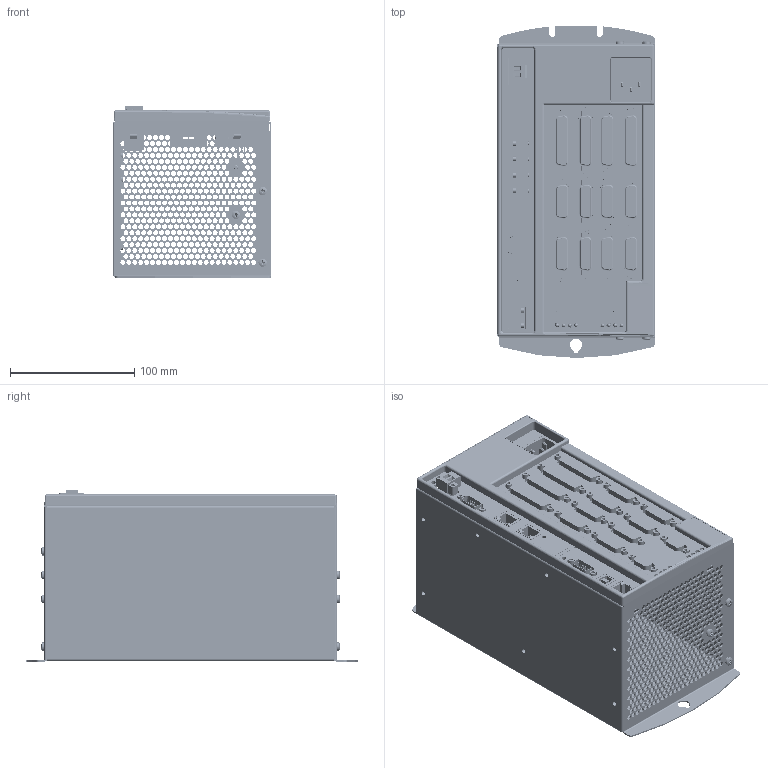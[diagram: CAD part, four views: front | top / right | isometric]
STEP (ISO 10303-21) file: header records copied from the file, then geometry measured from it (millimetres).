
FILE_DESCRIPTION((''),'2;1');
FILE_NAME('ACR9000_6_8_AXIS_EPL','2007-05-01T',('JOHNB'),('Ultra Tool'),'PRO/ENGINEER BY PARAMETRIC TECHNOLOGY CORPORATION, 2005380','PRO/ENGINEER BY PARAMETRIC TECHNOLOGY CORPORATION, 2005380','');
FILE_SCHEMA(('CONFIG_CONTROL_DESIGN'));
Products named in the file (1): ACR9000_6_8_AXIS_EPL
Bounding box: 127 x 266.7 x 138.05 mm (x, y, z)
Volume: 386284.8 mm3; surface area: 398232.6 mm2
Topology: 14 solids, 14 shells, 4520 faces, 12493 edges, 7977 vertices
Faces by surface type: cylinder 2781, plane 1303, bspline 179, cone 160, torus 48, sphere 47, extrusion 2
Entity records: 188497 total; most frequent: CARTESIAN_POINT 33293, DIRECTION 26234, ORIENTED_EDGE 24662, EDGE_CURVE 12331, AXIS2_PLACEMENT_3D 10130, VERTEX_POINT 8110, EDGE_LOOP 6822, VECTOR 5974
